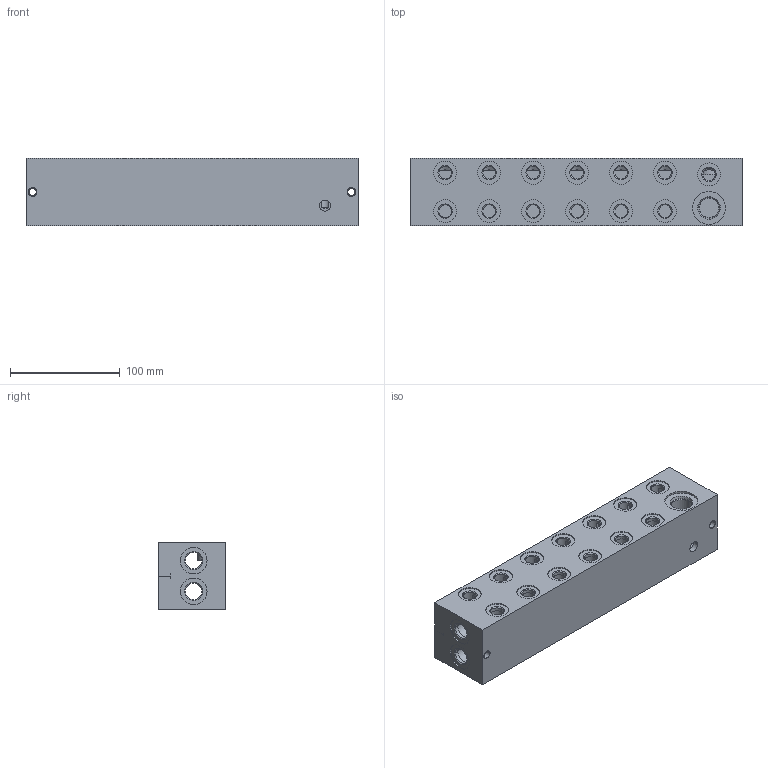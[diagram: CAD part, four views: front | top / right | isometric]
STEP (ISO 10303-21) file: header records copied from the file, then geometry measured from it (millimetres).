
FILE_DESCRIPTION((''),'2;1');
FILE_NAME('760_7060','2015-11-27T',('Ahcz.brigadnik05'),(''),'PRO/ENGINEER BY PARAMETRIC TECHNOLOGY CORPORATION, 2015110','PRO/ENGINEER BY PARAMETRIC TECHNOLOGY CORPORATION, 2015110','');
FILE_SCHEMA(('AUTOMOTIVE_DESIGN { 1 0 10303 214 1 1 1 1 }'));
Length unit declared in the file: millimetre
Products named in the file (1): 760_7060
Bounding box: 302 x 61 x 61 mm (x, y, z)
Volume: 416122.2 mm3; surface area: 167455.2 mm2
Topology: 1 solids, 50 shells, 447 faces, 2131 edges, 2002 vertices
Faces by surface type: cylinder 300, plane 86, cone 61
Entity records: 23682 total; most frequent: CARTESIAN_POINT 4967, DIRECTION 3621, ORIENTED_EDGE 2298, VECTOR 1313, LINE 1313, EDGE_CURVE 1247, AXIS2_PLACEMENT_3D 1154, TRIMMED_CURVE 879
